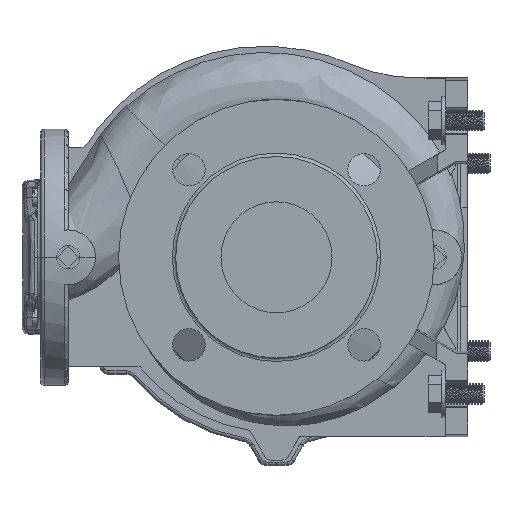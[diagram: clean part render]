
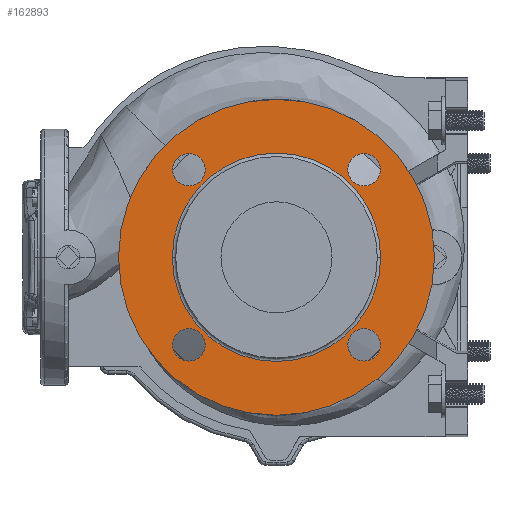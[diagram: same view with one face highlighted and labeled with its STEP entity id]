
A CAD part, left-side view. The second image highlights one B-rep face of the part: STEP entity #162893.
In plain terms, the highlighted planar face has unit normal (-1, 0, 0).
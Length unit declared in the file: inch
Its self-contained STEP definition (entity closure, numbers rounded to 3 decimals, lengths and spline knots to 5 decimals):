
#2493 = CARTESIAN_POINT ( 'NONE',  ( -9.52368, 2.37348, 3.80709 ) ) ;
#2712 = CARTESIAN_POINT ( 'NONE',  ( -9.52368, -1.66316, 3.80709 ) ) ;
#5398 = CIRCLE ( 'NONE', #145553, 0.37402 ) ;
#7017 = CIRCLE ( 'NONE', #51351, 2.40157 ) ;
#9436 = VERTEX_POINT ( 'NONE', #80978 ) ;
#12147 = EDGE_CURVE ( 'NONE', #95581, #109002, #168803, .T. ) ;
#14092 = VERTEX_POINT ( 'NONE', #84667 ) ;
#16645 = ORIENTED_EDGE ( 'NONE', *, *, #12147, .F. ) ;
#18451 = VERTEX_POINT ( 'NONE', #143137 ) ;
#20086 = AXIS2_PLACEMENT_3D ( 'NONE', #144476, #124870, #227718 ) ;
#20143 = EDGE_CURVE ( 'NONE', #228598, #18451, #109760, .T. ) ;
#22805 = DIRECTION ( 'NONE',  ( 0., 0., 1. ) ) ;
#25664 = FACE_BOUND ( 'NONE', #85070, .T. ) ;
#26660 = CARTESIAN_POINT ( 'NONE',  ( -9.52368, 3.99689, 1.78877 ) ) ;
#26805 = FACE_BOUND ( 'NONE', #205640, .T. ) ;
#28309 = AXIS2_PLACEMENT_3D ( 'NONE', #66622, #83989, #68895 ) ;
#28711 = DIRECTION ( 'NONE',  ( 0., -1., 0. ) ) ;
#30102 = VERTEX_POINT ( 'NONE', #114897 ) ;
#31796 = VERTEX_POINT ( 'NONE', #205850 ) ;
#32111 = AXIS2_PLACEMENT_3D ( 'NONE', #111181, #146992, #97279 ) ;
#32974 = DIRECTION ( 'NONE',  ( -1., 0., 0. ) ) ;
#39482 = CIRCLE ( 'NONE', #224009, 0.37402 ) ;
#42478 = EDGE_LOOP ( 'NONE', ( #137889, #16645 ) ) ;
#45718 = EDGE_CURVE ( 'NONE', #14092, #218554, #80242, .T. ) ;
#46923 = CIRCLE ( 'NONE', #202305, 0.37402 ) ;
#49396 = DIRECTION ( 'NONE',  ( -1., 0., 0. ) ) ;
#51351 = AXIS2_PLACEMENT_3D ( 'NONE', #209889, #207617, #87446 ) ;
#51665 = DIRECTION ( 'NONE',  ( 0., 1., 0. ) ) ;
#56315 = EDGE_CURVE ( 'NONE', #147808, #147892, #137546, .T. ) ;
#59690 = EDGE_CURVE ( 'NONE', #78606, #9436, #123318, .T. ) ;
#64482 = CARTESIAN_POINT ( 'NONE',  ( -9.52368, 0.35516, 1.78877 ) ) ;
#66622 = CARTESIAN_POINT ( 'NONE',  ( -9.52368, 2.37348, -0.22955 ) ) ;
#68895 = DIRECTION ( 'NONE',  ( 0., 0., 1. ) ) ;
#70282 = EDGE_LOOP ( 'NONE', ( #75814, #180718 ) ) ;
#70366 = DIRECTION ( 'NONE',  ( 0., -1., 0. ) ) ;
#74066 = DIRECTION ( 'NONE',  ( -1., 0., 0. ) ) ;
#75349 = EDGE_CURVE ( 'NONE', #18451, #228598, #164837, .T. ) ;
#75814 = ORIENTED_EDGE ( 'NONE', *, *, #56315, .F. ) ;
#75911 = DIRECTION ( 'NONE',  ( -1., 0., 0. ) ) ;
#75975 = EDGE_CURVE ( 'NONE', #30102, #31796, #39482, .T. ) ;
#78606 = VERTEX_POINT ( 'NONE', #26660 ) ;
#78851 = CARTESIAN_POINT ( 'NONE',  ( -9.52368, 2.74749, -0.22955 ) ) ;
#79231 = CARTESIAN_POINT ( 'NONE',  ( -9.52368, -1.66316, 3.80709 ) ) ;
#79758 = EDGE_CURVE ( 'NONE', #31796, #30102, #5398, .T. ) ;
#80242 = CIRCLE ( 'NONE', #139285, 2.40157 ) ;
#80792 = ORIENTED_EDGE ( 'NONE', *, *, #75349, .F. ) ;
#80978 = CARTESIAN_POINT ( 'NONE',  ( -9.52368, -3.28657, 1.78877 ) ) ;
#82984 = DIRECTION ( 'NONE',  ( -1., 0., 0. ) ) ;
#83989 = DIRECTION ( 'NONE',  ( -1., 0., 0. ) ) ;
#84334 = CARTESIAN_POINT ( 'NONE',  ( -9.52368, -2.03717, -0.22955 ) ) ;
#84667 = CARTESIAN_POINT ( 'NONE',  ( -9.52368, 2.75673, 1.78877 ) ) ;
#85070 = EDGE_LOOP ( 'NONE', ( #80792, #132765 ) ) ;
#86530 = CIRCLE ( 'NONE', #130882, 3.64173 ) ;
#87446 = DIRECTION ( 'NONE',  ( 0., -1., 0. ) ) ;
#95581 = VERTEX_POINT ( 'NONE', #216146 ) ;
#96969 = AXIS2_PLACEMENT_3D ( 'NONE', #196110, #75911, #161462 ) ;
#97279 = DIRECTION ( 'NONE',  ( 0., 1., 0. ) ) ;
#97759 = CARTESIAN_POINT ( 'NONE',  ( -9.52368, 0.35516, 1.78877 ) ) ;
#100275 = CARTESIAN_POINT ( 'NONE',  ( -9.52368, -1.66316, -0.22955 ) ) ;
#102794 = CARTESIAN_POINT ( 'NONE',  ( -9.52368, 2.37348, 3.80709 ) ) ;
#103192 = ORIENTED_EDGE ( 'NONE', *, *, #216885, .T. ) ;
#106117 = AXIS2_PLACEMENT_3D ( 'NONE', #2493, #74066, #176957 ) ;
#109002 = VERTEX_POINT ( 'NONE', #132572 ) ;
#109760 = CIRCLE ( 'NONE', #176089, 0.37402 ) ;
#111181 = CARTESIAN_POINT ( 'NONE',  ( -9.52368, 2.75673, 1.78877 ) ) ;
#114897 = CARTESIAN_POINT ( 'NONE',  ( -9.52368, -2.03717, 3.80709 ) ) ;
#119587 = DIRECTION ( 'NONE',  ( 0., 0., -1. ) ) ;
#122363 = DIRECTION ( 'NONE',  ( -1., 0., 0. ) ) ;
#123318 = CIRCLE ( 'NONE', #20086, 3.64173 ) ;
#124870 = DIRECTION ( 'NONE',  ( -1., 0., 0. ) ) ;
#125704 = EDGE_CURVE ( 'NONE', #109002, #95581, #156822, .T. ) ;
#128532 = PLANE ( 'NONE',  #32111 ) ;
#130882 = AXIS2_PLACEMENT_3D ( 'NONE', #64482, #82984, #28711 ) ;
#132572 = CARTESIAN_POINT ( 'NONE',  ( -9.52368, 1.99946, 3.80709 ) ) ;
#132765 = ORIENTED_EDGE ( 'NONE', *, *, #20143, .F. ) ;
#134562 = AXIS2_PLACEMENT_3D ( 'NONE', #102794, #122363, #70366 ) ;
#137546 = CIRCLE ( 'NONE', #96969, 0.37402 ) ;
#137868 = ORIENTED_EDGE ( 'NONE', *, *, #45718, .F. ) ;
#137889 = ORIENTED_EDGE ( 'NONE', *, *, #125704, .F. ) ;
#139285 = AXIS2_PLACEMENT_3D ( 'NONE', #97759, #32974, #157715 ) ;
#140229 = DIRECTION ( 'NONE',  ( -1., 0., 0. ) ) ;
#143137 = CARTESIAN_POINT ( 'NONE',  ( -9.52368, 1.99946, -0.22955 ) ) ;
#144476 = CARTESIAN_POINT ( 'NONE',  ( -9.52368, 0.35516, 1.78877 ) ) ;
#145553 = AXIS2_PLACEMENT_3D ( 'NONE', #79231, #188925, #119587 ) ;
#146992 = DIRECTION ( 'NONE',  ( 1., 0., 0. ) ) ;
#147808 = VERTEX_POINT ( 'NONE', #84334 ) ;
#147892 = VERTEX_POINT ( 'NONE', #211286 ) ;
#149249 = FACE_OUTER_BOUND ( 'NONE', #205683, .T. ) ;
#156822 = CIRCLE ( 'NONE', #134562, 0.37402 ) ;
#157715 = DIRECTION ( 'NONE',  ( 0., -1., 0. ) ) ;
#161462 = DIRECTION ( 'NONE',  ( 0., 1., 0. ) ) ;
#162601 = DIRECTION ( 'NONE',  ( -1., 0., 0. ) ) ;
#162893 = ADVANCED_FACE ( 'NONE', ( #26805, #217428, #25664, #220842, #200129, #149249 ), #128532, .F. ) ;
#164837 = CIRCLE ( 'NONE', #28309, 0.37402 ) ;
#165713 = EDGE_CURVE ( 'NONE', #147892, #147808, #46923, .T. ) ;
#168803 = CIRCLE ( 'NONE', #106117, 0.37402 ) ;
#176089 = AXIS2_PLACEMENT_3D ( 'NONE', #197249, #162601, #22805 ) ;
#176957 = DIRECTION ( 'NONE',  ( 0., -1., 0. ) ) ;
#179442 = DIRECTION ( 'NONE',  ( 0., 0., -1. ) ) ;
#180718 = ORIENTED_EDGE ( 'NONE', *, *, #165713, .F. ) ;
#182385 = EDGE_LOOP ( 'NONE', ( #226548, #137868 ) ) ;
#184441 = ORIENTED_EDGE ( 'NONE', *, *, #75975, .F. ) ;
#188925 = DIRECTION ( 'NONE',  ( -1., 0., 0. ) ) ;
#192586 = ORIENTED_EDGE ( 'NONE', *, *, #79758, .F. ) ;
#196110 = CARTESIAN_POINT ( 'NONE',  ( -9.52368, -1.66316, -0.22955 ) ) ;
#197246 = ORIENTED_EDGE ( 'NONE', *, *, #59690, .T. ) ;
#197249 = CARTESIAN_POINT ( 'NONE',  ( -9.52368, 2.37348, -0.22955 ) ) ;
#200129 = FACE_BOUND ( 'NONE', #182385, .T. ) ;
#202305 = AXIS2_PLACEMENT_3D ( 'NONE', #100275, #49396, #51665 ) ;
#204393 = EDGE_CURVE ( 'NONE', #218554, #14092, #7017, .T. ) ;
#205640 = EDGE_LOOP ( 'NONE', ( #184441, #192586 ) ) ;
#205683 = EDGE_LOOP ( 'NONE', ( #103192, #197246 ) ) ;
#205850 = CARTESIAN_POINT ( 'NONE',  ( -9.52368, -1.28914, 3.80709 ) ) ;
#207617 = DIRECTION ( 'NONE',  ( -1., 0., 0. ) ) ;
#209889 = CARTESIAN_POINT ( 'NONE',  ( -9.52368, 0.35516, 1.78877 ) ) ;
#211286 = CARTESIAN_POINT ( 'NONE',  ( -9.52368, -1.28914, -0.22955 ) ) ;
#216146 = CARTESIAN_POINT ( 'NONE',  ( -9.52368, 2.74749, 3.80709 ) ) ;
#216885 = EDGE_CURVE ( 'NONE', #9436, #78606, #86530, .T. ) ;
#217428 = FACE_BOUND ( 'NONE', #70282, .T. ) ;
#218554 = VERTEX_POINT ( 'NONE', #226270 ) ;
#220842 = FACE_BOUND ( 'NONE', #42478, .T. ) ;
#224009 = AXIS2_PLACEMENT_3D ( 'NONE', #2712, #140229, #179442 ) ;
#226270 = CARTESIAN_POINT ( 'NONE',  ( -9.52368, -2.04642, 1.78877 ) ) ;
#226548 = ORIENTED_EDGE ( 'NONE', *, *, #204393, .F. ) ;
#227718 = DIRECTION ( 'NONE',  ( 0., -1., 0. ) ) ;
#228598 = VERTEX_POINT ( 'NONE', #78851 ) ;
